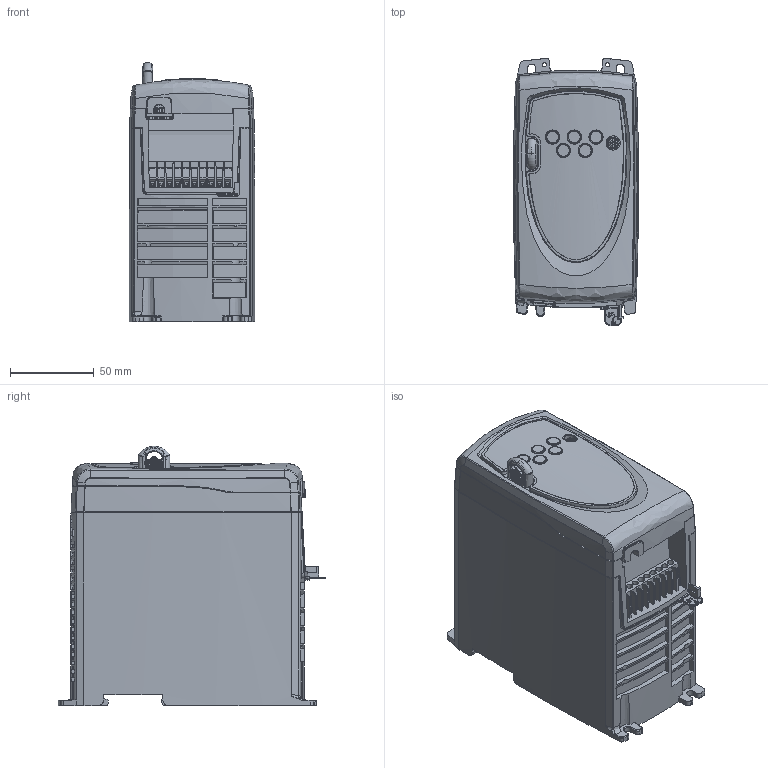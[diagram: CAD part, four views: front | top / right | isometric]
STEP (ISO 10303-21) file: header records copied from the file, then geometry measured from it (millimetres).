
FILE_DESCRIPTION((''),'2;1');
FILE_NAME('PK-SEQ-SK-A-ALL-LOGISTICK','2006-12-19T',('summne01'),(''),'PRO/ENGINEER BY PARAMETRIC TECHNOLOGY CORPORATION, 2006320','PRO/ENGINEER BY PARAMETRIC TECHNOLOGY CORPORATION, 2006320','');
FILE_SCHEMA(('CONFIG_CONTROL_DESIGN'));
Length unit declared in the file: millimetre
Products named in the file (1): PK-SEQ-SK-A-ALL-LOGISTICK
Bounding box: 74.95 x 159.99 x 155.16 mm (x, y, z)
Surface area: 162677.5 mm2 (no closed solid volume)
Topology: 0 solids, 283 shells, 3300 faces, 12024 edges, 8795 vertices
Faces by surface type: plane 2236, cylinder 698, cone 177, bspline 154, torus 24, extrusion 5, revolution 3, sphere 3
Entity records: 138774 total; most frequent: CARTESIAN_POINT 41553, ORIENTED_EDGE 19026, DIRECTION 18055, EDGE_CURVE 12022, VERTEX_POINT 8795, VECTOR 8622, LINE 8617, AXIS2_PLACEMENT_3D 4715
